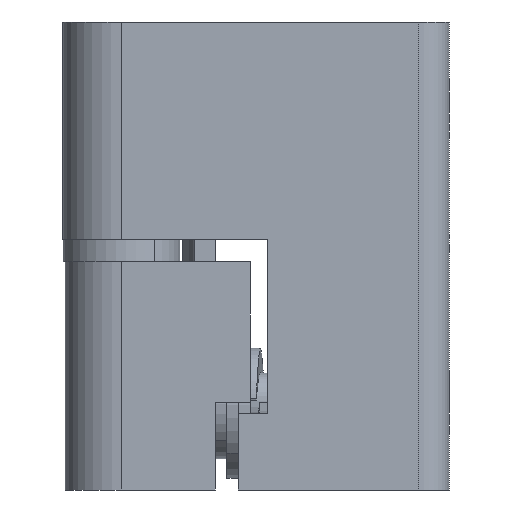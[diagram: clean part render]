
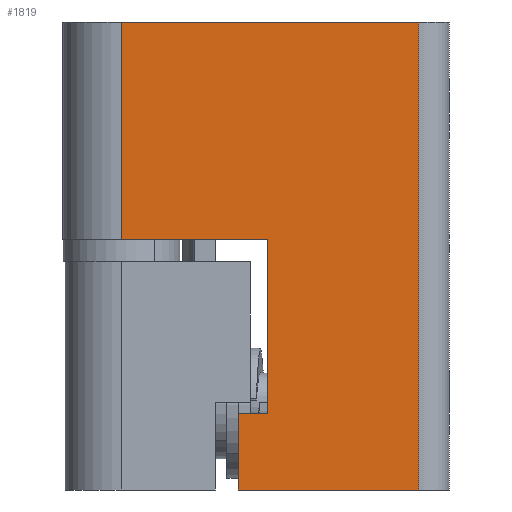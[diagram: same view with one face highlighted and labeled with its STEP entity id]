
A CAD part, left-side view. The second image highlights one B-rep face of the part: STEP entity #1819.
In plain terms, the highlighted planar face has unit normal (-1, 0, 0).
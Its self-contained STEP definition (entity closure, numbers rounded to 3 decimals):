
#367 = LINE ( 'NONE', #452, #3031 ) ;
#398 = ORIENTED_EDGE ( 'NONE', *, *, #4300, .F. ) ;
#430 = CARTESIAN_POINT ( 'NONE',  ( -5., 0., 40. ) ) ;
#452 = CARTESIAN_POINT ( 'NONE',  ( -5., 0., 40. ) ) ;
#458 = VECTOR ( 'NONE', #3048, 1000. ) ;
#621 = ORIENTED_EDGE ( 'NONE', *, *, #716, .T. ) ;
#716 = EDGE_CURVE ( 'NONE', #7154, #1269, #6499, .T. ) ;
#790 = DIRECTION ( 'NONE',  ( 0., 0., 1. ) ) ;
#990 = VECTOR ( 'NONE', #3235, 1000. ) ;
#1269 = VERTEX_POINT ( 'NONE', #4506 ) ;
#1316 = DIRECTION ( 'NONE',  ( 0., -1., 0. ) ) ;
#1324 = VECTOR ( 'NONE', #790, 1000. ) ;
#1571 = CARTESIAN_POINT ( 'NONE',  ( -5., 5., 21.4 ) ) ;
#1604 = DIRECTION ( 'NONE',  ( 0., 0., -1. ) ) ;
#1680 = VERTEX_POINT ( 'NONE', #6850 ) ;
#1819 = ADVANCED_FACE ( 'NONE', ( #7245 ), #4179, .F. ) ;
#1821 = LINE ( 'NONE', #6419, #4790 ) ;
#1934 = VERTEX_POINT ( 'NONE', #6442 ) ;
#1991 = LINE ( 'NONE', #5849, #458 ) ;
#2354 = ORIENTED_EDGE ( 'NONE', *, *, #5610, .T. ) ;
#2367 = VERTEX_POINT ( 'NONE', #6721 ) ;
#2402 = VECTOR ( 'NONE', #5759, 1000. ) ;
#2505 = LINE ( 'NONE', #1571, #990 ) ;
#2723 = DIRECTION ( 'NONE',  ( 0., -1., 0. ) ) ;
#2957 = VERTEX_POINT ( 'NONE', #3612 ) ;
#2966 = CARTESIAN_POINT ( 'NONE',  ( -5., 0., 21.4 ) ) ;
#3031 = VECTOR ( 'NONE', #1604, 1000. ) ;
#3048 = DIRECTION ( 'NONE',  ( 0., 0., -1. ) ) ;
#3235 = DIRECTION ( 'NONE',  ( 0., 1., 0. ) ) ;
#3294 = ORIENTED_EDGE ( 'NONE', *, *, #6169, .F. ) ;
#3612 = CARTESIAN_POINT ( 'NONE',  ( -5., -12.5, 21.4 ) ) ;
#3707 = LINE ( 'NONE', #430, #5043 ) ;
#3736 = AXIS2_PLACEMENT_3D ( 'NONE', #5318, #4130, #6390 ) ;
#3813 = EDGE_CURVE ( 'NONE', #7154, #1934, #5455, .T. ) ;
#4108 = CARTESIAN_POINT ( 'NONE',  ( -5., -12.5, 6.5 ) ) ;
#4130 = DIRECTION ( 'NONE',  ( 1., 0., 0. ) ) ;
#4132 = ORIENTED_EDGE ( 'NONE', *, *, #5846, .F. ) ;
#4179 = PLANE ( 'NONE',  #3736 ) ;
#4300 = EDGE_CURVE ( 'NONE', #5706, #1269, #1991, .T. ) ;
#4327 = EDGE_CURVE ( 'NONE', #1680, #2957, #1821, .T. ) ;
#4427 = VECTOR ( 'NONE', #1316, 1000. ) ;
#4506 = CARTESIAN_POINT ( 'NONE',  ( -5., -25.4, 0. ) ) ;
#4606 = CARTESIAN_POINT ( 'NONE',  ( -5., -10., 0. ) ) ;
#4730 = CARTESIAN_POINT ( 'NONE',  ( -5., -10., 6.5 ) ) ;
#4790 = VECTOR ( 'NONE', #5871, 1000. ) ;
#5043 = VECTOR ( 'NONE', #2723, 1000. ) ;
#5095 = CARTESIAN_POINT ( 'NONE',  ( -5., -25.4, 40. ) ) ;
#5244 = VERTEX_POINT ( 'NONE', #2966 ) ;
#5318 = CARTESIAN_POINT ( 'NONE',  ( -5., 0., 40. ) ) ;
#5419 = CARTESIAN_POINT ( 'NONE',  ( -5., 0., 0. ) ) ;
#5455 = LINE ( 'NONE', #4730, #1324 ) ;
#5602 = ORIENTED_EDGE ( 'NONE', *, *, #3813, .F. ) ;
#5610 = EDGE_CURVE ( 'NONE', #2367, #5244, #367, .T. ) ;
#5706 = VERTEX_POINT ( 'NONE', #5095 ) ;
#5759 = DIRECTION ( 'NONE',  ( 0., -1., 0. ) ) ;
#5846 = EDGE_CURVE ( 'NONE', #1934, #1680, #5928, .T. ) ;
#5849 = CARTESIAN_POINT ( 'NONE',  ( -5., -25.4, 40. ) ) ;
#5871 = DIRECTION ( 'NONE',  ( 0., 0., 1. ) ) ;
#5928 = LINE ( 'NONE', #4108, #4427 ) ;
#6169 = EDGE_CURVE ( 'NONE', #2957, #5244, #2505, .T. ) ;
#6234 = ORIENTED_EDGE ( 'NONE', *, *, #6916, .F. ) ;
#6390 = DIRECTION ( 'NONE',  ( 0., 1., 0. ) ) ;
#6419 = CARTESIAN_POINT ( 'NONE',  ( -5., -12.5, 21.4 ) ) ;
#6442 = CARTESIAN_POINT ( 'NONE',  ( -5., -10., 6.5 ) ) ;
#6499 = LINE ( 'NONE', #5419, #2402 ) ;
#6721 = CARTESIAN_POINT ( 'NONE',  ( -5., 0., 40. ) ) ;
#6850 = CARTESIAN_POINT ( 'NONE',  ( -5., -12.5, 6.5 ) ) ;
#6868 = ORIENTED_EDGE ( 'NONE', *, *, #4327, .F. ) ;
#6916 = EDGE_CURVE ( 'NONE', #2367, #5706, #3707, .T. ) ;
#7070 = EDGE_LOOP ( 'NONE', ( #2354, #3294, #6868, #4132, #5602, #621, #398, #6234 ) ) ;
#7154 = VERTEX_POINT ( 'NONE', #4606 ) ;
#7245 = FACE_OUTER_BOUND ( 'NONE', #7070, .T. ) ;
